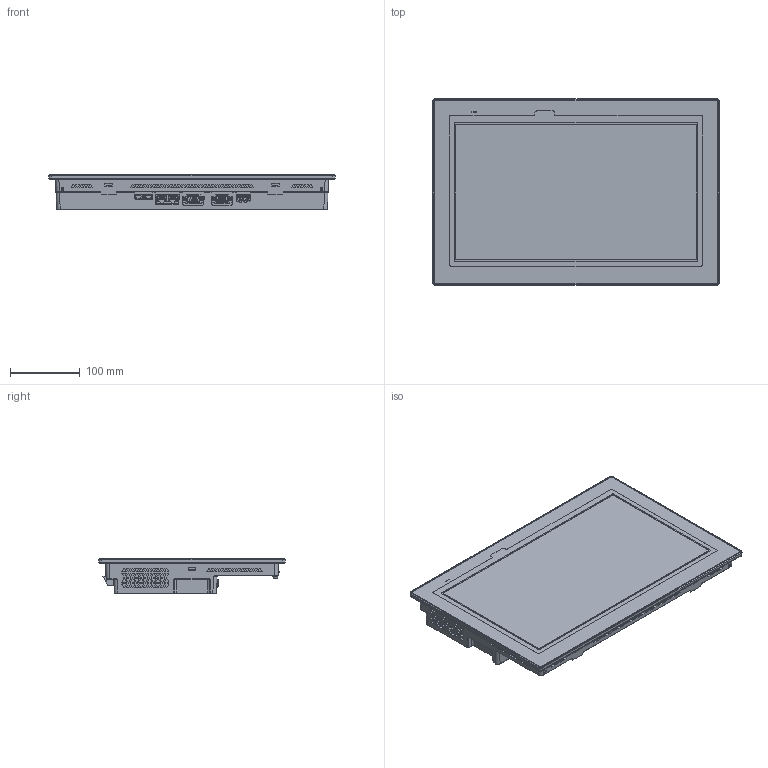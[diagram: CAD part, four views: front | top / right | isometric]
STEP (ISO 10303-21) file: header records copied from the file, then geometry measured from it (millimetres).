
FILE_DESCRIPTION((''),'2;1');
FILE_NAME('PRT0001','2019-04-12T13:35:37',('SESA409019'),('Schneider-Electric'),'CREO PARAMETRIC BY PTC INC, 2018300','CREO PARAMETRIC BY PTC INC, 2018300','');
FILE_SCHEMA(('CONFIG_CONTROL_DESIGN'));
Products named in the file (1): PRT0001
Bounding box: 412 x 268 x 50 mm (x, y, z)
Volume: 3872994.6 mm3; surface area: 488737.4 mm2
Topology: 1 solids, 15 shells, 7488 faces, 21879 edges, 14899 vertices
Faces by surface type: plane 3758, cylinder 2323, extrusion 924, cone 189, bspline 127, torus 116, sphere 51
Entity records: 266418 total; most frequent: CARTESIAN_POINT 74535, ORIENTED_EDGE 43572, DIRECTION 33909, EDGE_CURVE 21789, VERTEX_POINT 14899, VECTOR 13313, LINE 12389, AXIS2_PLACEMENT_3D 10298
